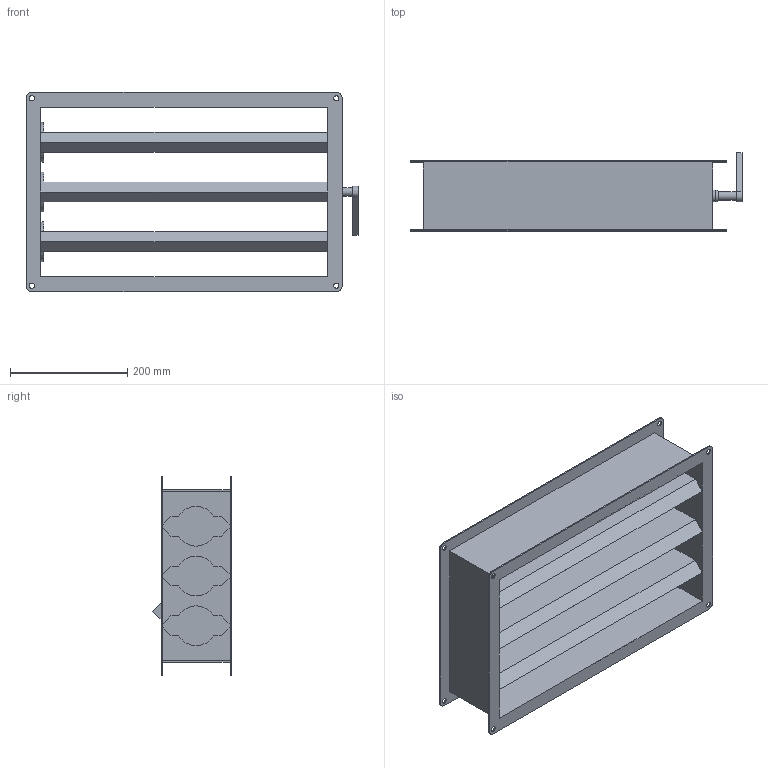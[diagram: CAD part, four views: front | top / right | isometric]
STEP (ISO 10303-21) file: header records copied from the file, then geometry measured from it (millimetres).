
FILE_DESCRIPTION(/* description */ (''),/* implementation_level */ '2;1');
FILE_NAME(/* name */ 'Z:\Output\JVK_50-30-06912-004.stp',/* time_stamp */ '2017-07-11T11:30:56+02:00',/* author */ ('Engineering1'),/* organization */ (''),/* preprocessor_version */ 'ST-DEVELOPER v16.5',/* originating_system */ 'Autodesk Inventor 2017',/* authorisation */ '');
FILE_SCHEMA (('AUTOMOTIVE_DESIGN { 1 0 10303 214 3 1 1 }'));
Length unit declared in the file: millimetre
Products named in the file (1): JVK-1
Bounding box: 567 x 134.14 x 340 mm (x, y, z)
Volume: 5731409.1 mm3; surface area: 918370.7 mm2
Topology: 1 solids, 1 shells, 87 faces, 237 edges, 152 vertices
Faces by surface type: plane 57, cylinder 27, bspline 3
Full cylindrical faces by diameter (mm): 9 x8, 14 x1, 20 x3
Entity records: 2754 total; most frequent: CARTESIAN_POINT 537, DIRECTION 446, ORIENTED_EDGE 438, EDGE_CURVE 219, LINE 156, VECTOR 156, VERTEX_POINT 146, AXIS2_PLACEMENT_3D 145
